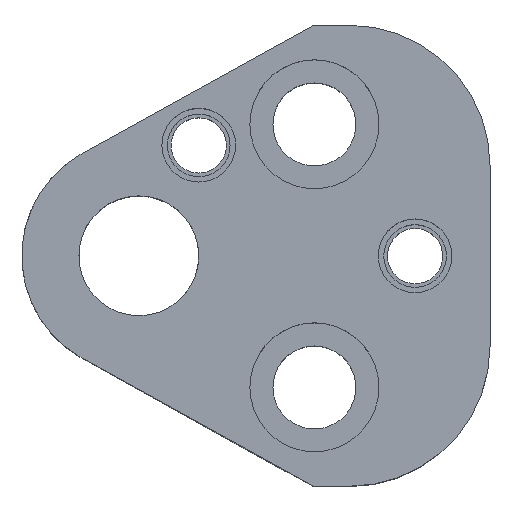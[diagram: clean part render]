
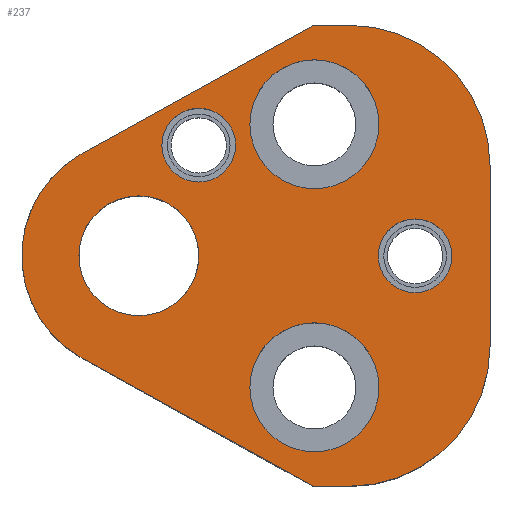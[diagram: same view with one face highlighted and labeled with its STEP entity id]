
A CAD part, top view. The second image highlights one B-rep face of the part: STEP entity #237.
In plain terms, the highlighted planar face has unit normal (0, 0, 1).
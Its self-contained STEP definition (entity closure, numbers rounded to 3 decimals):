
#113=FACE_BOUND('',#341,.T.);
#114=FACE_BOUND('',#342,.T.);
#115=FACE_BOUND('',#343,.T.);
#116=FACE_BOUND('',#344,.T.);
#117=FACE_BOUND('',#345,.T.);
#118=FACE_BOUND('',#346,.T.);
#149=CIRCLE('',#871,15.2);
#151=CIRCLE('',#875,15.2);
#154=CIRCLE('',#882,12.7);
#170=CIRCLE('',#907,7.);
#172=CIRCLE('',#910,7.);
#174=CIRCLE('',#914,7.);
#176=CIRCLE('',#917,7.);
#190=CIRCLE('',#943,4.);
#191=CIRCLE('',#944,4.);
#192=CIRCLE('',#945,4.);
#193=CIRCLE('',#946,4.);
#194=CIRCLE('',#947,6.5);
#195=CIRCLE('',#948,6.5);
#237=ADVANCED_FACE('',(#113,#114,#115,#116,#117,#118),#261,.T.);
#261=PLANE('',#949);
#341=EDGE_LOOP('',(#511,#512,#513,#514,#515,#516,#517,#518));
#342=EDGE_LOOP('',(#519,#520));
#343=EDGE_LOOP('',(#521,#522));
#344=EDGE_LOOP('',(#523,#524));
#345=EDGE_LOOP('',(#525,#526));
#346=EDGE_LOOP('',(#527,#528));
#511=ORIENTED_EDGE('',*,*,#675,.T.);
#512=ORIENTED_EDGE('',*,*,#654,.T.);
#513=ORIENTED_EDGE('',*,*,#658,.T.);
#514=ORIENTED_EDGE('',*,*,#661,.T.);
#515=ORIENTED_EDGE('',*,*,#664,.T.);
#516=ORIENTED_EDGE('',*,*,#667,.T.);
#517=ORIENTED_EDGE('',*,*,#670,.T.);
#518=ORIENTED_EDGE('',*,*,#679,.T.);
#519=ORIENTED_EDGE('',*,*,#740,.F.);
#520=ORIENTED_EDGE('',*,*,#741,.F.);
#521=ORIENTED_EDGE('',*,*,#742,.F.);
#522=ORIENTED_EDGE('',*,*,#743,.F.);
#523=ORIENTED_EDGE('',*,*,#718,.F.);
#524=ORIENTED_EDGE('',*,*,#714,.F.);
#525=ORIENTED_EDGE('',*,*,#712,.F.);
#526=ORIENTED_EDGE('',*,*,#708,.F.);
#527=ORIENTED_EDGE('',*,*,#744,.T.);
#528=ORIENTED_EDGE('',*,*,#745,.T.);
#581=VERTEX_POINT('',#1228);
#582=VERTEX_POINT('',#1230);
#585=VERTEX_POINT('',#1237);
#587=VERTEX_POINT('',#1243);
#589=VERTEX_POINT('',#1249);
#591=VERTEX_POINT('',#1255);
#593=VERTEX_POINT('',#1261);
#597=VERTEX_POINT('',#1272);
#619=VERTEX_POINT('',#1342);
#620=VERTEX_POINT('',#1343);
#623=VERTEX_POINT('',#1355);
#624=VERTEX_POINT('',#1356);
#639=VERTEX_POINT('',#1410);
#640=VERTEX_POINT('',#1411);
#641=VERTEX_POINT('',#1414);
#642=VERTEX_POINT('',#1415);
#643=VERTEX_POINT('',#1418);
#644=VERTEX_POINT('',#1419);
#654=EDGE_CURVE('',#582,#581,#764,.T.);
#658=EDGE_CURVE('',#581,#585,#149,.T.);
#661=EDGE_CURVE('',#585,#587,#769,.T.);
#664=EDGE_CURVE('',#587,#589,#151,.T.);
#667=EDGE_CURVE('',#589,#591,#773,.T.);
#670=EDGE_CURVE('',#591,#593,#776,.T.);
#675=EDGE_CURVE('',#597,#582,#781,.T.);
#679=EDGE_CURVE('',#593,#597,#154,.T.);
#708=EDGE_CURVE('',#619,#620,#170,.T.);
#712=EDGE_CURVE('',#620,#619,#172,.T.);
#714=EDGE_CURVE('',#623,#624,#174,.T.);
#718=EDGE_CURVE('',#624,#623,#176,.T.);
#740=EDGE_CURVE('',#639,#640,#190,.T.);
#741=EDGE_CURVE('',#640,#639,#191,.T.);
#742=EDGE_CURVE('',#641,#642,#192,.T.);
#743=EDGE_CURVE('',#642,#641,#193,.T.);
#744=EDGE_CURVE('',#643,#644,#194,.T.);
#745=EDGE_CURVE('',#644,#643,#195,.T.);
#764=LINE('',#1229,#817);
#769=LINE('',#1244,#822);
#773=LINE('',#1256,#826);
#776=LINE('',#1262,#829);
#781=LINE('',#1271,#834);
#817=VECTOR('',#973,1.);
#822=VECTOR('',#986,1.);
#826=VECTOR('',#998,1.);
#829=VECTOR('',#1003,1.);
#834=VECTOR('',#1010,1.);
#871=AXIS2_PLACEMENT_3D('',#1238,#979,#980);
#875=AXIS2_PLACEMENT_3D('',#1250,#991,#992);
#882=AXIS2_PLACEMENT_3D('',#1279,#1017,#1018);
#907=AXIS2_PLACEMENT_3D('',#1341,#1079,#1080);
#910=AXIS2_PLACEMENT_3D('',#1350,#1087,#1088);
#914=AXIS2_PLACEMENT_3D('',#1354,#1095,#1096);
#917=AXIS2_PLACEMENT_3D('',#1363,#1103,#1104);
#943=AXIS2_PLACEMENT_3D('',#1409,#1163,#1164);
#944=AXIS2_PLACEMENT_3D('',#1412,#1165,#1166);
#945=AXIS2_PLACEMENT_3D('',#1413,#1167,#1168);
#946=AXIS2_PLACEMENT_3D('',#1416,#1169,#1170);
#947=AXIS2_PLACEMENT_3D('',#1417,#1171,#1172);
#948=AXIS2_PLACEMENT_3D('',#1420,#1173,#1174);
#949=AXIS2_PLACEMENT_3D('',#1421,#1175,#1176);
#973=DIRECTION('',(1.,0.,0.));
#979=DIRECTION('',(0.,0.,1.));
#980=DIRECTION('',(-0.707,0.707,0.));
#986=DIRECTION('',(0.,1.,0.));
#991=DIRECTION('',(0.,0.,1.));
#992=DIRECTION('',(-0.707,-0.707,0.));
#998=DIRECTION('',(-1.,0.,0.));
#1003=DIRECTION('',(-0.875,-0.485,0.));
#1010=DIRECTION('',(0.875,-0.485,0.));
#1017=DIRECTION('',(0.,0.,1.));
#1018=DIRECTION('',(1.,0.,0.));
#1079=DIRECTION('',(0.,0.,1.));
#1080=DIRECTION('',(-1.,0.,0.));
#1087=DIRECTION('',(0.,0.,1.));
#1088=DIRECTION('',(1.,0.,0.));
#1095=DIRECTION('',(0.,0.,1.));
#1096=DIRECTION('',(-1.,0.,0.));
#1103=DIRECTION('',(0.,0.,1.));
#1104=DIRECTION('',(1.,0.,0.));
#1163=DIRECTION('',(0.,0.,1.));
#1164=DIRECTION('',(1.,0.,0.));
#1165=DIRECTION('',(0.,0.,1.));
#1166=DIRECTION('',(-1.,0.,0.));
#1167=DIRECTION('',(0.,0.,1.));
#1168=DIRECTION('',(1.,0.,0.));
#1169=DIRECTION('',(0.,0.,1.));
#1170=DIRECTION('',(-1.,0.,0.));
#1171=DIRECTION('',(0.,0.,-1.));
#1172=DIRECTION('',(-1.,0.,0.));
#1173=DIRECTION('',(0.,0.,-1.));
#1174=DIRECTION('',(1.,0.,0.));
#1175=DIRECTION('',(0.,0.,1.));
#1176=DIRECTION('',(-0.875,0.485,0.));
#1228=CARTESIAN_POINT('',(22.9,-25.,25.));
#1229=CARTESIAN_POINT('',(18.905,-25.,25.));
#1230=CARTESIAN_POINT('',(18.905,-25.,25.));
#1237=CARTESIAN_POINT('',(38.1,-9.8,25.));
#1238=CARTESIAN_POINT('',(22.9,-9.8,25.));
#1243=CARTESIAN_POINT('',(38.1,9.8,25.));
#1244=CARTESIAN_POINT('',(38.1,9.8,25.));
#1249=CARTESIAN_POINT('',(22.9,25.,25.));
#1250=CARTESIAN_POINT('',(22.9,9.8,25.));
#1255=CARTESIAN_POINT('',(18.905,25.,25.));
#1256=CARTESIAN_POINT('',(18.905,25.,25.));
#1261=CARTESIAN_POINT('',(-6.157,11.108,25.));
#1262=CARTESIAN_POINT('',(18.905,25.,25.));
#1271=CARTESIAN_POINT('',(18.905,-25.,25.));
#1272=CARTESIAN_POINT('',(-6.157,-11.108,25.));
#1279=CARTESIAN_POINT('',(0.,0.,25.));
#1341=CARTESIAN_POINT('',(19.05,-14.27,25.));
#1342=CARTESIAN_POINT('',(19.05,-21.27,25.));
#1343=CARTESIAN_POINT('',(19.05,-7.27,25.));
#1350=CARTESIAN_POINT('',(19.05,-14.27,25.));
#1354=CARTESIAN_POINT('',(19.05,14.27,25.));
#1355=CARTESIAN_POINT('',(19.05,7.27,25.));
#1356=CARTESIAN_POINT('',(19.05,21.27,25.));
#1363=CARTESIAN_POINT('',(19.05,14.27,25.));
#1409=CARTESIAN_POINT('',(29.97,0.,25.));
#1410=CARTESIAN_POINT('',(29.97,4.,25.));
#1411=CARTESIAN_POINT('',(29.97,-4.,25.));
#1412=CARTESIAN_POINT('',(29.97,0.,25.));
#1413=CARTESIAN_POINT('',(6.5,12.,25.));
#1414=CARTESIAN_POINT('',(6.5,16.,25.));
#1415=CARTESIAN_POINT('',(6.5,8.,25.));
#1416=CARTESIAN_POINT('',(6.5,12.,25.));
#1417=CARTESIAN_POINT('',(0.,0.,25.));
#1418=CARTESIAN_POINT('',(0.,6.5,25.));
#1419=CARTESIAN_POINT('',(0.,-6.5,25.));
#1420=CARTESIAN_POINT('',(0.,0.,25.));
#1421=CARTESIAN_POINT('',(-6.157,-11.108,25.));
